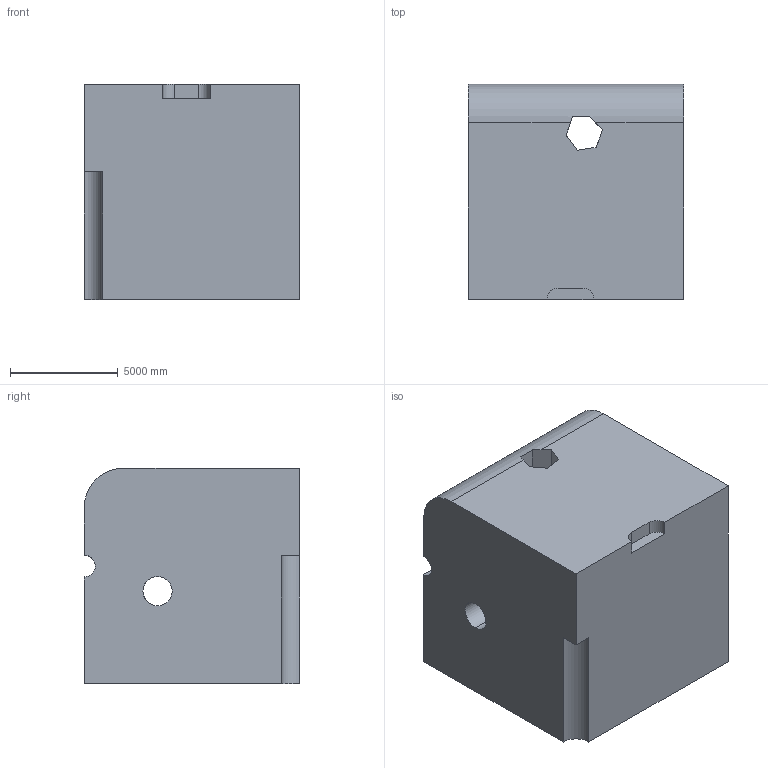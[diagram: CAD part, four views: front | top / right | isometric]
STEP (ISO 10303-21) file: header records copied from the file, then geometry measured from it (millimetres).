
FILE_DESCRIPTION (( 'STEP AP203' ), '1' );
FILE_NAME ('83.STEP', '2022-08-30T14:27:51', ( 'user' ), ( '' ), 'SwSTEP 2.0', 'SolidWorks 2021', '' );
FILE_SCHEMA (( 'CONFIG_CONTROL_DESIGN' ));
Length unit declared in the file: centimetre
Products named in the file (1): 83
Bounding box: 10000 x 10000 x 10000 mm (x, y, z)
Volume: 935431250027.6 mm3; surface area: 717539027.8 mm2
Topology: 1 solids, 1 shells, 42 faces, 118 edges, 78 vertices
Faces by surface type: plane 28, cylinder 14
Entity records: 1444 total; most frequent: CARTESIAN_POINT 266, ORIENTED_EDGE 236, DIRECTION 224, EDGE_CURVE 118, LINE 80, VECTOR 80, VERTEX_POINT 78, AXIS2_PLACEMENT_3D 72
